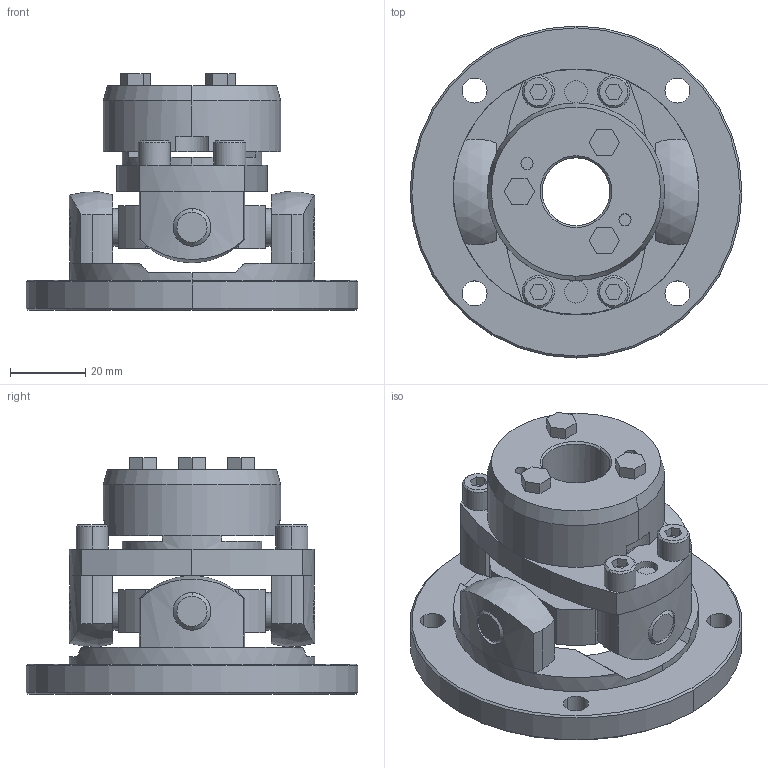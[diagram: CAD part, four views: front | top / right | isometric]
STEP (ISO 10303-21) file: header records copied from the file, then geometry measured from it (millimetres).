
FILE_DESCRIPTION((''),'2;1');
FILE_NAME('UCNF-65T7-18.stp','2011-09-17T16:14:51',(''),(''),'AutoCAD STEP 2000i','AutoCAD 2000i',', , ');
FILE_SCHEMA(('CONFIG_CONTROL_DESIGN'));
Length unit declared in the file: millimetre
Products named in the file (7): UCNF-65T7-17; 忣兜1; UCN65T7-T017; UCNF-6502; UCN65T7-T015-1; UCN65T7-T015; UCN65-SEN
Assembly tree (6 placements, depth 2):
  UCNF-65T7-17
    忣兜1
    UCN65T7-T017
    UCNF-6502
    UCN65T7-T015-1
    UCN65T7-T015
    UCN65-SEN
Bounding box: 88 x 88 x 62.7 mm (x, y, z)
Volume: 116818.2 mm3; surface area: 37932.3 mm2
Topology: 1 solids, 1 shells, 283 faces, 704 edges, 456 vertices
Faces by surface type: plane 131, cylinder 110, cone 38, sphere 4
Entity records: 9063 total; most frequent: CARTESIAN_POINT 1838, DIRECTION 1578, ORIENTED_EDGE 1408, EDGE_CURVE 704, AXIS2_PLACEMENT_3D 600, VERTEX_POINT 456, VECTOR 378, LINE 378
